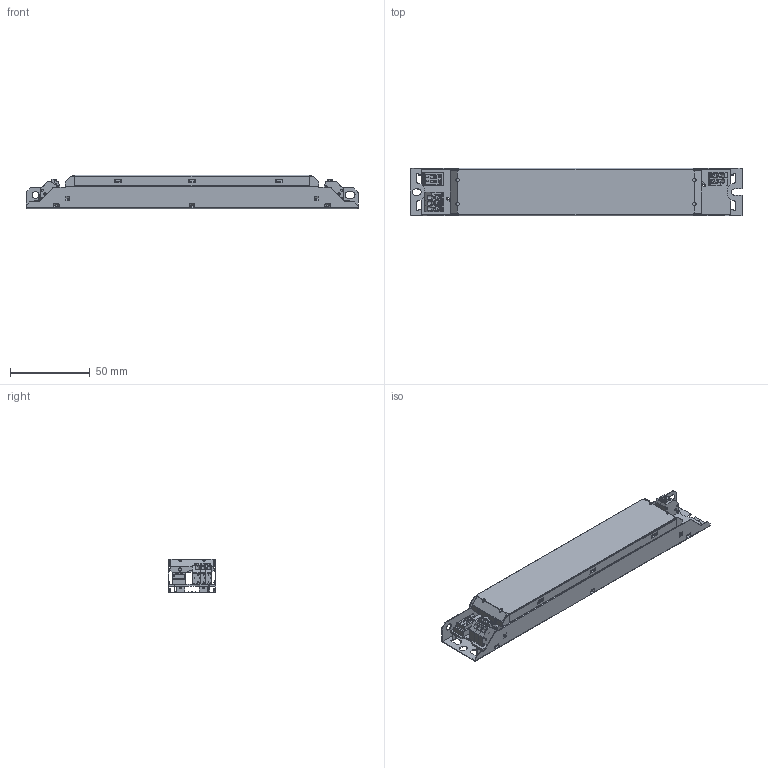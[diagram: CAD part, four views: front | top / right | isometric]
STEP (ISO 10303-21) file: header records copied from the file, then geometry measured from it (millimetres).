
FILE_DESCRIPTION((''),'2;1');
FILE_NAME('ASM0022_ASM','2023-09-21T',('Administrator'),(''),'PRO/ENGINEER BY PARAMETRIC TECHNOLOGY CORPORATION, 2010280','PRO/ENGINEER BY PARAMETRIC TECHNOLOGY CORPORATION, 2010280','');
FILE_SCHEMA(('CONFIG_CONTROL_DESIGN'));
Products named in the file (21): PRT0038; PRT0041; PRT0042; ASM0023_ASM; PCB-BLACK-RED_AF0_ASM; MANIFOLD_SOLID_BREP_3679; MANIFOLD_SOLID_BREP_4712; PCB-JXD-RED_1_ASM; PCB-JXD-BLACK_1; ASM0001_ASM_1_ASM; PCB-JXD-BOMAQI; MANIFOLD_SOLID_BREP_29400; MANIFOLD_SOLID_BREP_30433; PCB-JXD-RED__1_ASM; PCB-JXD-BLACK__1-35397; MANIFOLD_SOLID_BREP_39096; MANIFOLD_SOLID_BREP_40129; PCB-JXD-HUI_1_ASM; PVB-HUI-ZHISE_ASM_1_ASM; PVB-HUI-ZHISE_ASM_ASM; ASM0022_ASM
Assembly tree (20 placements, depth 5):
  ASM0022_ASM
    ASM0023_ASM
      PRT0038
      PRT0041
      PRT0042
    PCB-BLACK-RED_AF0_ASM
    ASM0001_ASM_1_ASM
      PCB-JXD-RED_1_ASM
        MANIFOLD_SOLID_BREP_3679
        MANIFOLD_SOLID_BREP_4712
      PCB-JXD-BLACK_1
    PCB-JXD-BOMAQI
    PVB-HUI-ZHISE_ASM_ASM
      PVB-HUI-ZHISE_ASM_1_ASM
        PCB-JXD-RED__1_ASM
          MANIFOLD_SOLID_BREP_29400
          MANIFOLD_SOLID_BREP_30433
        PCB-JXD-BLACK__1-35397
        PCB-JXD-HUI_1_ASM
          MANIFOLD_SOLID_BREP_39096
          MANIFOLD_SOLID_BREP_40129
Bounding box: 208 x 30.02 x 21.04 mm (x, y, z)
Volume: 11719.8 mm3; surface area: 56713.6 mm2
Topology: 11 solids, 12 shells, 1880 faces, 5150 edges, 3260 vertices
Faces by surface type: plane 1022, cylinder 659, bspline 84, sphere 83, cone 24, torus 8
Entity records: 70120 total; most frequent: CARTESIAN_POINT 22605, ORIENTED_EDGE 10115, DIRECTION 9454, EDGE_CURVE 5059, VECTOR 3376, LINE 3376, VERTEX_POINT 3260, AXIS2_PLACEMENT_3D 3039
